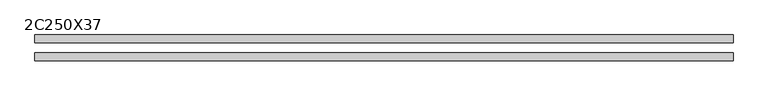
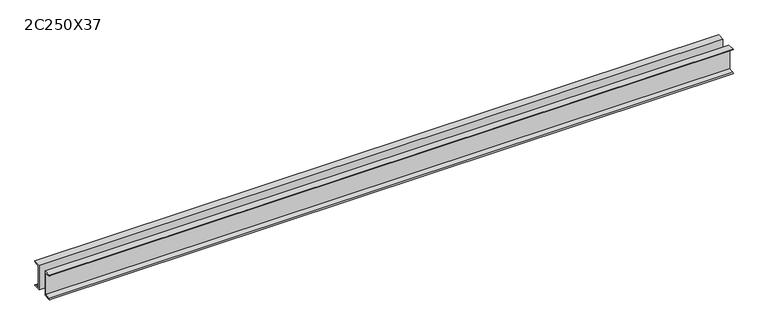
"""IFC4 building model written with IfcOpenShell, lengths in millimetres: beam geometry, Profilato a doppia C : 2C250X37."""

from ifc_helpers import new_model, si_unit, point, frame, frame_2d, origin, place, context, project, spatial, polyline, circle_curve, trimmed, segment, composite_curve, outline, extrude, source, transform, mapped, element, save


def beam_2c250x37_f4fb58e9(model_context):
    return source(origin(), model_context, "Body", "SweptSolid", [
        extrude(outline(composite_curve([segment(polyline([(50.0, 127.0), (123.3, 127.0)]), True, "CONTINUOUS"), segment(trimmed(circle_curve(frame_2d((112.2, 127.0)), 11.1), [point((123.3, 127.0))], [point((112.2, 115.9))], False, "CARTESIAN"), True, "CONTINUOUS"), segment(polyline([(112.2, 115.9), (63.4, 108.1708393), (63.4, -108.1708393), (112.2, -115.9)]), True, "CONTINUOUS"), segment(trimmed(circle_curve(frame_2d((112.2, -127.0)), 11.1), [point((112.2, -115.9))], [point((123.3, -127.0))], False, "CARTESIAN"), True, "CONTINUOUS"), segment(polyline([(123.3, -127.0), (50.0, -127.0), (50.0, 127.0)]), True, "CONTINUOUS")], self_intersect=False)), frame((-3407.5, 0.0, 0.0), z_axis=(1.0, 0.0, 0.0), x_axis=(0.0, 1.0, 0.0)), (0.0, 0.0, 1.0), 6695.0),
        extrude(outline(composite_curve([segment(polyline([(-50.0, 127.0), (-50.0, -127.0), (-123.3, -127.0)]), True, "CONTINUOUS"), segment(trimmed(circle_curve(frame_2d((-112.2, -127.0)), 11.1), [point((-123.3, -127.0))], [point((-112.2, -115.9))], False, "CARTESIAN"), True, "CONTINUOUS"), segment(polyline([(-112.2, -115.9), (-63.4, -108.1708393), (-63.4, 108.1708393), (-112.2, 115.9)]), True, "CONTINUOUS"), segment(trimmed(circle_curve(frame_2d((-112.2, 127.0)), 11.1), [point((-112.2, 115.9))], [point((-123.3, 127.0))], False, "CARTESIAN"), True, "CONTINUOUS"), segment(polyline([(-123.3, 127.0), (-50.0, 127.0)]), True, "CONTINUOUS")], self_intersect=False)), frame((-3407.5, 0.0, 0.0), z_axis=(1.0, 0.0, 0.0), x_axis=(0.0, 1.0, 0.0)), (0.0, 0.0, 1.0), 6695.0),
    ])


if __name__ == "__main__":
    model = new_model("IFC4")
    model_context = context("Model", 3, world=origin())
    ifc_project = project(units=[si_unit("LENGTHUNIT", "METRE", prefix="MILLI")], contexts=[model_context])
    site = spatial("IfcSite", under=ifc_project)
    building = spatial("IfcBuilding", under=site)
    placement = place(None, origin())
    beam_2c250x37_shape = beam_2c250x37_f4fb58e9(model_context)
    element("IfcBeam", 1, ObjectType="Profilato a doppia C : 2C250X37", at=placement, inside=building, context=model_context, shape_type="MappedRepresentation", body=[
        mapped(beam_2c250x37_shape, transform((0.0, 0.0, 0.0), x_axis=(1.0, 0.0, 0.0), y_axis=(0.0, 1.0, 0.0), z_axis=(0.0, 0.0, 1.0))),
    ])
    save(model, "model.ifc")
